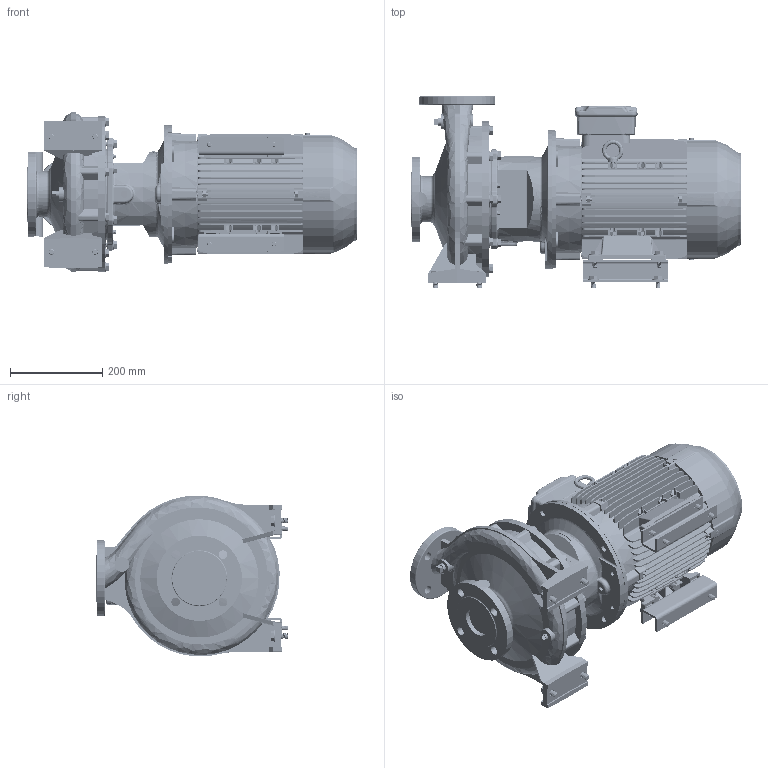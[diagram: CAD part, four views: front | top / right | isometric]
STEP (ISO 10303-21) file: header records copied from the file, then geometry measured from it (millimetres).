
FILE_DESCRIPTION (( 'STEP AP214' ), '1' );
FILE_NAME ('GSD4 50-250_5.5_(132S)_W21.STEP', '2026-06-18T06:25:00', ( '' ), ( '' ), 'SwSTEP 2.0', 'SolidWorks 2024', '' );
FILE_SCHEMA (( 'AUTOMOTIVE_DESIGN' ));
Length unit declared in the file: millimetre
Products named in the file (12): Parametric bolt_SFT-A253B; Parametric bolt and washer_SFT-A249B; 50-250-132S_ﾃﾞﾌｫﾙﾄ; Parametric Flat Washer_M12; Parametric bolt and washer_SFT-A253B; Parametric Flat Washer_M10; Parametric bolt_SFT-A299B; GSD4 50-250_5.5_(132S)_W21; Parametric bolt_SFT-A249B; Parametric bolt and washer_SFT-A299B; 140 x 48 - 271472022; 132S ALIE3_W21T_B35
Assembly tree (22 placements, depth 3):
  GSD4 50-250_5.5_(132S)_W21
    50-250-132S_ﾃﾞﾌｫﾙﾄ
    140 x 48 - 271472022  x2
    Parametric bolt and washer_SFT-A249B  x4
      Parametric bolt_SFT-A249B
      Parametric Flat Washer_M10
    Parametric bolt and washer_SFT-A299B  x4
      Parametric bolt_SFT-A299B
      Parametric Flat Washer_M12
    Parametric bolt and washer_SFT-A253B  x4
      Parametric bolt_SFT-A253B
      Parametric Flat Washer_M10
    132S ALIE3_W21T_B35
Bounding box: 714.8 x 418 x 348.52 mm (x, y, z)
Volume: 31364042.7 mm3; surface area: 2155742.4 mm2
Topology: 32 solids, 33 shells, 5054 faces, 13054 edges, 8418 vertices
Faces by surface type: plane 2980, cylinder 1208, torus 293, cone 273, bspline 268, sphere 32
Entity records: 170137 total; most frequent: CARTESIAN_POINT 61388, ORIENTED_EDGE 23360, DIRECTION 21195, EDGE_CURVE 11680, VECTOR 7729, LINE 7729, VERTEX_POINT 7538, AXIS2_PLACEMENT_3D 6733
